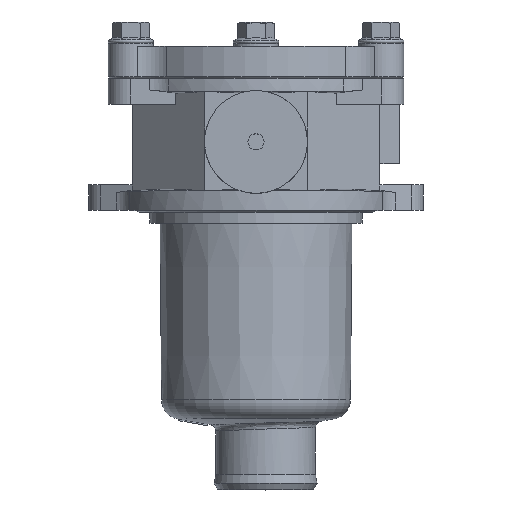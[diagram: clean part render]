
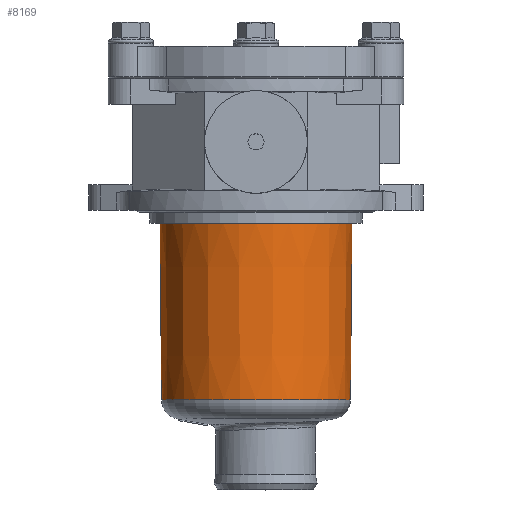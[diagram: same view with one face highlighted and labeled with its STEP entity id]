
A CAD part, top view. The second image highlights one B-rep face of the part: STEP entity #8169.
In plain terms, the highlighted conical face has half-angle 0.5 degrees and reference radius 29.616 mm.
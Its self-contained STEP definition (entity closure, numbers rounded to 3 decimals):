
#8135=CARTESIAN_POINT('',(29.398,0.,-55.01));
#8136=VERTEX_POINT('',#8135);
#8137=CARTESIAN_POINT('',(0.,0.,-55.01));
#8138=DIRECTION('',(0.0,0.0,-1.0));
#8139=DIRECTION('',(-1.0,0.0,0.0));
#8140=AXIS2_PLACEMENT_3D('',#8137,#8138,#8139);
#8141=CIRCLE('',#8140,29.398);
#8142=EDGE_CURVE('',#8136,#8136,#8141,.T.);
#8150=CARTESIAN_POINT('',(0.,0.0,-30.0));
#8151=DIRECTION('',(0.,0.0,1.0));
#8152=DIRECTION('',(1.0,0.0,0.0));
#8153=AXIS2_PLACEMENT_3D('',#8150,#8151,#8152);
#8154=CONICAL_SURFACE('',#8153,29.616,0.5);
#8155=CARTESIAN_POINT('',(29.878,0.0,0.));
#8156=VERTEX_POINT('',#8155);
#8157=CARTESIAN_POINT('',(0.0,0.0,0.0));
#8158=DIRECTION('',(0.0,0.0,-1.0));
#8159=DIRECTION('',(1.0,0.0,0.0));
#8160=AXIS2_PLACEMENT_3D('',#8157,#8158,#8159);
#8161=CIRCLE('',#8160,29.878);
#8162=EDGE_CURVE('',#8156,#8156,#8161,.T.);
#8163=ORIENTED_EDGE('',*,*,#8162,.T.);
#8164=EDGE_LOOP('',(#8163));
#8165=FACE_OUTER_BOUND('',#8164,.T.);
#8166=ORIENTED_EDGE('',*,*,#8142,.F.);
#8167=EDGE_LOOP('',(#8166));
#8168=FACE_BOUND('',#8167,.T.);
#8169=ADVANCED_FACE('',(#8165,#8168),#8154,.T.);
